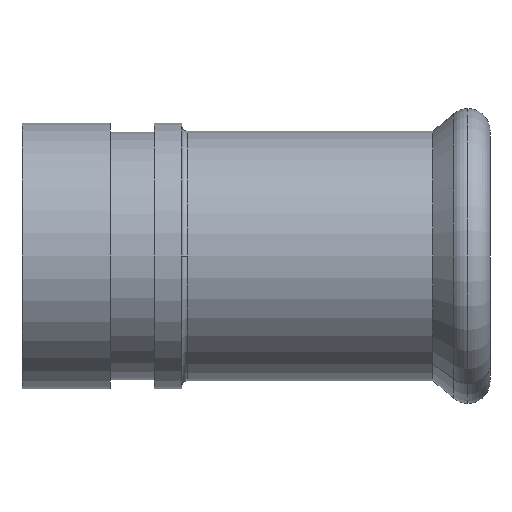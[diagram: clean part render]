
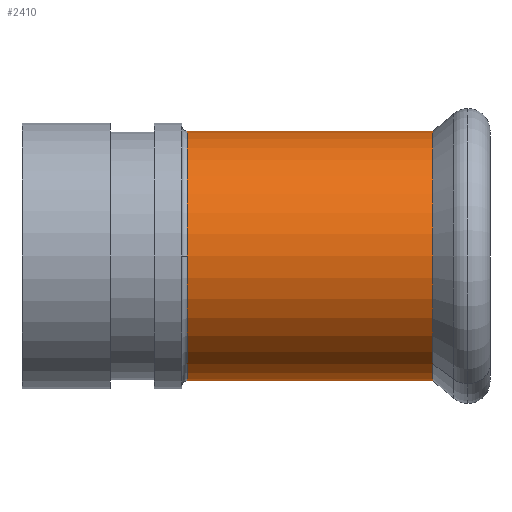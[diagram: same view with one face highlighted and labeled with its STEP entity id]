
A CAD part, front view. The second image highlights one B-rep face of the part: STEP entity #2410.
In plain terms, the highlighted cylindrical face has radius 22.65 mm (diameter 45.3 mm), a partial arc.
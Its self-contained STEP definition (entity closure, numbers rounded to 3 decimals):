
#1920=CARTESIAN_POINT('',(490.97,-209.596,
0.));
#1930=DIRECTION('',(1.,0.,0.));
#1940=DIRECTION('',(0.,-0.,-1.));
#1950=AXIS2_PLACEMENT_3D('',#1920,#1930,#1940);
#1960=CYLINDRICAL_SURFACE('',#1950,22.65);
#1970=CARTESIAN_POINT('',(490.97,-209.596,22.65));
#1980=DIRECTION('',(1.,0.,0.));
#1990=VECTOR('',#1980,1.);
#2000=LINE('',#1970,#1990);
#2010=CARTESIAN_POINT('',(466.818,-209.596,22.65));
#2020=VERTEX_POINT('',#2010);
#2030=CARTESIAN_POINT('',(511.394,-209.596,22.65));
#2040=VERTEX_POINT('',#2030);
#2050=EDGE_CURVE('',#2020,#2040,#2000,.T.);
#2060=ORIENTED_EDGE('',*,*,#2050,.F.);
#2070=CARTESIAN_POINT('',(511.394,-209.596,
0.));
#2080=DIRECTION('',(1.,0.,0.));
#2090=DIRECTION('',(0.,0.5,
0.866));
#2100=AXIS2_PLACEMENT_3D('',#2070,#2080,#2090);
#2110=CIRCLE('',#2100,22.65);
#2120=CARTESIAN_POINT('',(511.394,-220.921,
-19.615));
#2130=VERTEX_POINT('',#2120);
#2140=EDGE_CURVE('',#2040,#2130,#2110,.T.);
#2150=ORIENTED_EDGE('',*,*,#2140,.F.);
#2160=CARTESIAN_POINT('',(511.394,-209.596,-22.65));
#2170=VERTEX_POINT('',#2160);
#2180=EDGE_CURVE('',#2130,#2170,#2110,.T.);
#2190=ORIENTED_EDGE('',*,*,#2180,.F.);
#2200=CARTESIAN_POINT('',(490.97,-209.596,-22.65));
#2210=DIRECTION('',(1.,0.,0.));
#2220=VECTOR('',#2210,1.);
#2230=LINE('',#2200,#2220);
#2240=CARTESIAN_POINT('',(466.818,-209.596,-22.65));
#2250=VERTEX_POINT('',#2240);
#2260=EDGE_CURVE('',#2250,#2170,#2230,.T.);
#2270=ORIENTED_EDGE('',*,*,#2260,.T.);
#2280=CARTESIAN_POINT('',(466.818,-209.596,
0.));
#2290=DIRECTION('',(1.,0.,0.));
#2300=DIRECTION('',(0.,-1.,0.));
#2310=AXIS2_PLACEMENT_3D('',#2280,#2290,#2300);
#2320=CIRCLE('',#2310,22.65);
#2330=CARTESIAN_POINT('',(466.818,-232.246,
0.));
#2340=VERTEX_POINT('',#2330);
#2350=EDGE_CURVE('',#2340,#2250,#2320,.T.);
#2360=ORIENTED_EDGE('',*,*,#2350,.T.);
#2370=EDGE_CURVE('',#2020,#2340,#2320,.T.);
#2380=ORIENTED_EDGE('',*,*,#2370,.T.);
#2390=EDGE_LOOP('',(#2380,#2360,#2270,#2190,#2150,#2060));
#2400=FACE_OUTER_BOUND('',#2390,.T.);
#2410=ADVANCED_FACE('',(#2400),#1960,.T.);
